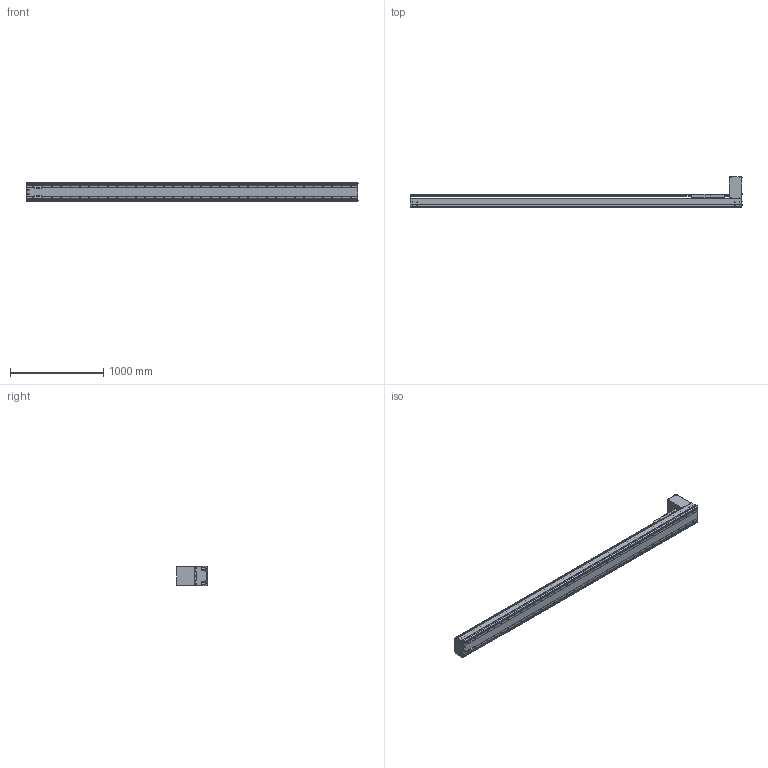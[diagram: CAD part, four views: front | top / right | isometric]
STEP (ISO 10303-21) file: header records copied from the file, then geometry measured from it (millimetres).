
FILE_DESCRIPTION((''),'2;1');
FILE_NAME('BE60J-BT-L19N-V5_IGS_PRT','2017-06-18T',(' '),(''),'PRO/ENGINEER BY PARAMETRIC TECHNOLOGY CORPORATION, 2015030','PRO/ENGINEER BY PARAMETRIC TECHNOLOGY CORPORATION, 2015030','');
FILE_SCHEMA(('CONFIG_CONTROL_DESIGN'));
Products named in the file (1): BE60J-BT-L19N-V5_IGS_PRT
Bounding box: 3554.4 x 327.5 x 214 mm (x, y, z)
Volume: 27160644.2 mm3; surface area: 7495053.8 mm2
Topology: 2 solids, 411 shells, 2736 faces, 7834 edges, 5278 vertices
Faces by surface type: cylinder 1404, plane 908, cone 328, torus 48, sphere 48
Entity records: 92383 total; most frequent: CARTESIAN_POINT 21978, DIRECTION 14587, ORIENTED_EDGE 13756, EDGE_CURVE 7572, AXIS2_PLACEMENT_3D 5609, VERTEX_POINT 5244, EDGE_LOOP 3376, VECTOR 3369
